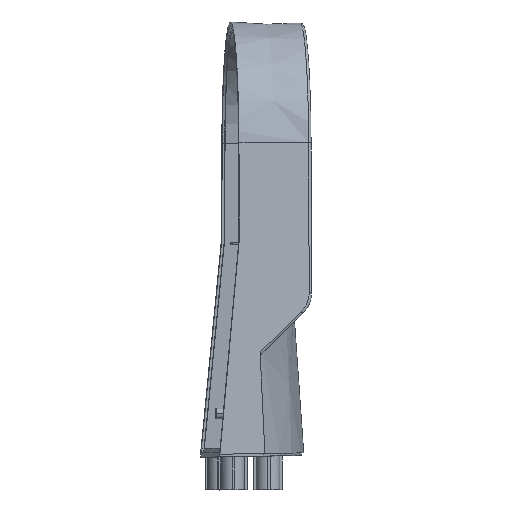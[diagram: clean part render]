
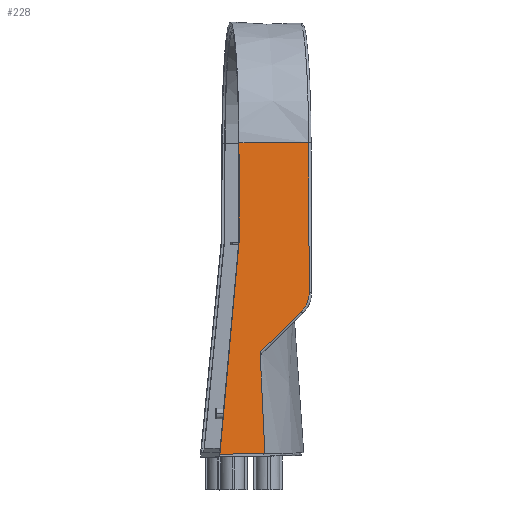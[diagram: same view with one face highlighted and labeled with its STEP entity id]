
A CAD part, top view. The second image highlights one B-rep face of the part: STEP entity #228.
In plain terms, the highlighted planar face has unit normal (0.085, 0.052, 0.995).
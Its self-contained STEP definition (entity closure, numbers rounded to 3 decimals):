
#111 = VERTEX_POINT ( 'NONE', #3388 ) ;
#128 = ORIENTED_EDGE ( 'NONE', *, *, #4896, .T. ) ;
#228 = ADVANCED_FACE ( 'NONE', ( #4012 ), #10630, .T. ) ;
#380 = B_SPLINE_CURVE_WITH_KNOTS ( 'NONE', 3,
 ( #10092, #7429, #3116, #4893, #6530, #633, #3944, #4783, #5638, #7359, #10854, #3150, #7466, #4018, #10054, #10930, #7612, #6726 ),
 .UNSPECIFIED., .F., .F.,
 ( 4, 1, 1, 2, 2, 2, 1, 1, 2, 2, 4 ),
 ( 0., 0.125, 0.188, 0.219, 0.25, 0.5, 0.625, 0.688, 0.719, 0.75, 1. ),
 .UNSPECIFIED. ) ;
#504 = LINE ( 'NONE', #1427, #7479 ) ;
#633 = CARTESIAN_POINT ( 'NONE',  ( 78.521, 12.3, 223.413 ) ) ;
#787 = CARTESIAN_POINT ( 'NONE',  ( 53.847, 38.395, 224.135 ) ) ;
#812 = DIRECTION ( 'NONE',  ( 0.004, -0.999, 0.052 ) ) ;
#1096 = DIRECTION ( 'NONE',  ( 0.084, 0.052, 0.995 ) ) ;
#1313 = EDGE_CURVE ( 'NONE', #3733, #1316, #504, .T. ) ;
#1316 = VERTEX_POINT ( 'NONE', #3913 ) ;
#1376 = EDGE_CURVE ( 'NONE', #5833, #1316, #380, .T. ) ;
#1427 = CARTESIAN_POINT ( 'NONE',  ( 80.145, 74.908, 219.983 ) ) ;
#1616 = ORIENTED_EDGE ( 'NONE', *, *, #6950, .T. ) ;
#1735 = CARTESIAN_POINT ( 'NONE',  ( 77.351, 10.925, 223.585 ) ) ;
#1753 = DIRECTION ( 'NONE',  ( -0.09, -0.994, 0.06 ) ) ;
#1793 = CARTESIAN_POINT ( 'NONE',  ( 61.716, -4.381, 225.717 ) ) ;
#1813 = VECTOR ( 'NONE', #1753, 1000. ) ;
#2208 = CARTESIAN_POINT ( 'NONE',  ( 63.556, -42.919, 227.587 ) ) ;
#2352 = DIRECTION ( 'NONE',  ( 0.004, -0.999, 0.052 ) ) ;
#2549 = ORIENTED_EDGE ( 'NONE', *, *, #3964, .T. ) ;
#2621 = DIRECTION ( 'NONE',  ( 0.996, 0.017, -0.085 ) ) ;
#3075 = VERTEX_POINT ( 'NONE', #6508 ) ;
#3116 = CARTESIAN_POINT ( 'NONE',  ( 77.921, 11.518, 223.505 ) ) ;
#3150 = CARTESIAN_POINT ( 'NONE',  ( 80.029, 15.554, 223.114 ) ) ;
#3242 = EDGE_LOOP ( 'NONE', ( #128, #1616, #2549, #4393, #5088, #10861, #4427, #5377 ) ) ;
#3388 = CARTESIAN_POINT ( 'NONE',  ( 46.484, -43.218, 229.052 ) ) ;
#3435 = CARTESIAN_POINT ( 'NONE',  ( 80.145, 74.908, 219.983 ) ) ;
#3733 = VERTEX_POINT ( 'NONE', #3435 ) ;
#3798 = CARTESIAN_POINT ( 'NONE',  ( 53.847, 38.395, 224.135 ) ) ;
#3843 = CARTESIAN_POINT ( 'NONE',  ( 62.327, -17.136, 226.336 ) ) ;
#3913 = CARTESIAN_POINT ( 'NONE',  ( 80.344, 18.095, 222.954 ) ) ;
#3944 = CARTESIAN_POINT ( 'NONE',  ( 78.567, 12.366, 223.406 ) ) ;
#3964 = EDGE_CURVE ( 'NONE', #7800, #6960, #6909, .T. ) ;
#4012 = FACE_OUTER_BOUND ( 'NONE', #3242, .T. ) ;
#4018 = CARTESIAN_POINT ( 'NONE',  ( 80.123, 15.964, 223.085 ) ) ;
#4259 = LINE ( 'NONE', #787, #1813 ) ;
#4393 = ORIENTED_EDGE ( 'NONE', *, *, #8141, .T. ) ;
#4406 = CARTESIAN_POINT ( 'NONE',  ( 46.484, -43.218, 229.052 ) ) ;
#4427 = ORIENTED_EDGE ( 'NONE', *, *, #4539, .T. ) ;
#4539 = EDGE_CURVE ( 'NONE', #3733, #3075, #9371, .T. ) ;
#4729 = VERTEX_POINT ( 'NONE', #3798 ) ;
#4783 = CARTESIAN_POINT ( 'NONE',  ( 78.993, 12.992, 223.337 ) ) ;
#4893 = CARTESIAN_POINT ( 'NONE',  ( 78.279, 11.967, 223.451 ) ) ;
#4896 = EDGE_CURVE ( 'NONE', #4729, #111, #4259, .T. ) ;
#5088 = ORIENTED_EDGE ( 'NONE', *, *, #1376, .T. ) ;
#5377 = ORIENTED_EDGE ( 'NONE', *, *, #5842, .T. ) ;
#5638 = CARTESIAN_POINT ( 'NONE',  ( 79.313, 13.582, 223.279 ) ) ;
#5833 = VERTEX_POINT ( 'NONE', #1735 ) ;
#5842 = EDGE_CURVE ( 'NONE', #3075, #4729, #10564, .T. ) ;
#6058 = VECTOR ( 'NONE', #8254, 1000. ) ;
#6224 = VECTOR ( 'NONE', #2621, 1000. ) ;
#6311 = CARTESIAN_POINT ( 'NONE',  ( 81.124, 74.908, 219.9 ) ) ;
#6508 = CARTESIAN_POINT ( 'NONE',  ( 53.718, 74.933, 222.225 ) ) ;
#6526 = CARTESIAN_POINT ( 'NONE',  ( 61.716, -4.381, 225.717 ) ) ;
#6530 = CARTESIAN_POINT ( 'NONE',  ( 78.425, 12.166, 223.429 ) ) ;
#6726 = CARTESIAN_POINT ( 'NONE',  ( 80.344, 18.095, 222.954 ) ) ;
#6909 = B_SPLINE_CURVE_WITH_KNOTS ( 'NONE', 3,
 ( #2208, #9036, #3843, #9118 ),
 .UNSPECIFIED., .F., .F.,
 ( 4, 4 ),
 ( 0., 1. ),
 .UNSPECIFIED. ) ;
#6950 = EDGE_CURVE ( 'NONE', #111, #7800, #9746, .T. ) ;
#6960 = VERTEX_POINT ( 'NONE', #1793 ) ;
#6987 = CARTESIAN_POINT ( 'NONE',  ( 80.145, 74.908, 219.983 ) ) ;
#7133 = DIRECTION ( 'NONE',  ( 0.996, 0., -0.085 ) ) ;
#7359 = CARTESIAN_POINT ( 'NONE',  ( 79.702, 14.514, 223.197 ) ) ;
#7429 = CARTESIAN_POINT ( 'NONE',  ( 77.586, 11.156, 223.553 ) ) ;
#7466 = CARTESIAN_POINT ( 'NONE',  ( 80.087, 15.8, 223.096 ) ) ;
#7479 = VECTOR ( 'NONE', #2352, 1000. ) ;
#7612 = CARTESIAN_POINT ( 'NONE',  ( 80.347, 17.433, 222.989 ) ) ;
#7800 = VERTEX_POINT ( 'NONE', #10155 ) ;
#8124 = VECTOR ( 'NONE', #812, 1000. ) ;
#8141 = EDGE_CURVE ( 'NONE', #6960, #5833, #8339, .T. ) ;
#8254 = DIRECTION ( 'NONE',  ( 0.711, 0.696, -0.097 ) ) ;
#8339 = LINE ( 'NONE', #6526, #6058 ) ;
#8463 = AXIS2_PLACEMENT_3D ( 'NONE', #6311, #1096, #7133 ) ;
#8583 = CARTESIAN_POINT ( 'NONE',  ( 53.718, 74.933, 222.225 ) ) ;
#9036 = CARTESIAN_POINT ( 'NONE',  ( 62.94, -29.982, 226.959 ) ) ;
#9118 = CARTESIAN_POINT ( 'NONE',  ( 61.716, -4.381, 225.717 ) ) ;
#9371 = LINE ( 'NONE', #6987, #10728 ) ;
#9746 = LINE ( 'NONE', #4406, #6224 ) ;
#10054 = CARTESIAN_POINT ( 'NONE',  ( 80.141, 16.048, 223.079 ) ) ;
#10092 = CARTESIAN_POINT ( 'NONE',  ( 77.351, 10.925, 223.585 ) ) ;
#10155 = CARTESIAN_POINT ( 'NONE',  ( 63.556, -42.919, 227.587 ) ) ;
#10448 = DIRECTION ( 'NONE',  ( -0.996, 0.001, 0.085 ) ) ;
#10564 = LINE ( 'NONE', #8583, #8124 ) ;
#10630 = PLANE ( 'NONE',  #8463 ) ;
#10728 = VECTOR ( 'NONE', #10448, 1000. ) ;
#10854 = CARTESIAN_POINT ( 'NONE',  ( 79.873, 14.988, 223.157 ) ) ;
#10861 = ORIENTED_EDGE ( 'NONE', *, *, #1313, .F. ) ;
#10930 = CARTESIAN_POINT ( 'NONE',  ( 80.284, 16.778, 223.028 ) ) ;
